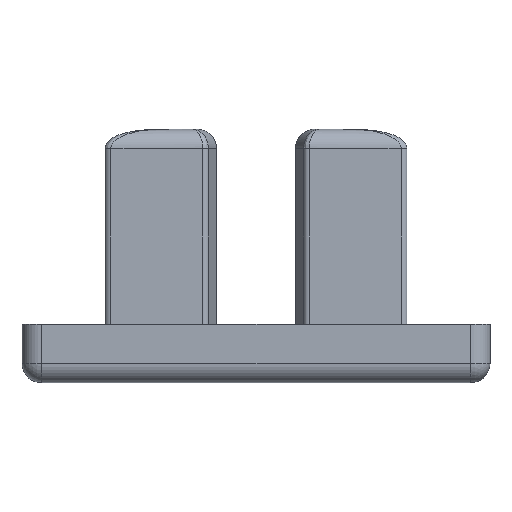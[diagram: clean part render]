
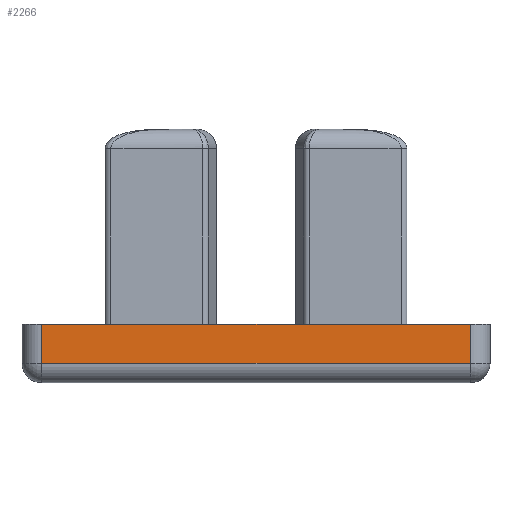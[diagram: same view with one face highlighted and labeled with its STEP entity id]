
A CAD part, left-side view. The second image highlights one B-rep face of the part: STEP entity #2266.
In plain terms, the highlighted planar face has unit normal (-1, 0, 0).
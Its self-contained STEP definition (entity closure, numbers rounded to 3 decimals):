
#90 = CARTESIAN_POINT ( 'NONE',  ( 0., 23., 3. ) ) ;
#94 = EDGE_CURVE ( 'NONE', #3015, #2921, #1959, .T. ) ;
#181 = FACE_OUTER_BOUND ( 'NONE', #1362, .T. ) ;
#207 = DIRECTION ( 'NONE',  ( 0., -1., 0. ) ) ;
#266 = CARTESIAN_POINT ( 'NONE',  ( 0., 23., 1. ) ) ;
#269 = CARTESIAN_POINT ( 'NONE',  ( 0., 1., 1. ) ) ;
#291 = PLANE ( 'NONE',  #1941 ) ;
#367 = ORIENTED_EDGE ( 'NONE', *, *, #583, .T. ) ;
#405 = ORIENTED_EDGE ( 'NONE', *, *, #2671, .F. ) ;
#434 = VERTEX_POINT ( 'NONE', #90 ) ;
#474 = LINE ( 'NONE', #2161, #1003 ) ;
#539 = DIRECTION ( 'NONE',  ( 1., 0., 0. ) ) ;
#583 = EDGE_CURVE ( 'NONE', #434, #2143, #474, .T. ) ;
#905 = LINE ( 'NONE', #2488, #2497 ) ;
#1003 = VECTOR ( 'NONE', #1911, 1000. ) ;
#1216 = LINE ( 'NONE', #1666, #2450 ) ;
#1362 = EDGE_LOOP ( 'NONE', ( #2527, #1971, #405, #367 ) ) ;
#1666 = CARTESIAN_POINT ( 'NONE',  ( 0., 24., 1. ) ) ;
#1852 = EDGE_CURVE ( 'NONE', #2143, #3015, #1216, .T. ) ;
#1911 = DIRECTION ( 'NONE',  ( 0., 0., -1. ) ) ;
#1941 = AXIS2_PLACEMENT_3D ( 'NONE', #2516, #539, #2245 ) ;
#1959 = LINE ( 'NONE', #2790, #2124 ) ;
#1971 = ORIENTED_EDGE ( 'NONE', *, *, #94, .T. ) ;
#2027 = DIRECTION ( 'NONE',  ( 0., -1., 0. ) ) ;
#2124 = VECTOR ( 'NONE', #2797, 1000. ) ;
#2143 = VERTEX_POINT ( 'NONE', #266 ) ;
#2161 = CARTESIAN_POINT ( 'NONE',  ( 0., 23., 3. ) ) ;
#2245 = DIRECTION ( 'NONE',  ( 0., 1., 0. ) ) ;
#2266 = ADVANCED_FACE ( 'NONE', ( #181 ), #291, .F. ) ;
#2450 = VECTOR ( 'NONE', #207, 1000. ) ;
#2488 = CARTESIAN_POINT ( 'NONE',  ( 0., 24., 3. ) ) ;
#2497 = VECTOR ( 'NONE', #2027, 1000. ) ;
#2516 = CARTESIAN_POINT ( 'NONE',  ( 0., 24., 3. ) ) ;
#2527 = ORIENTED_EDGE ( 'NONE', *, *, #1852, .T. ) ;
#2671 = EDGE_CURVE ( 'NONE', #434, #2921, #905, .T. ) ;
#2790 = CARTESIAN_POINT ( 'NONE',  ( 0., 1., 3. ) ) ;
#2797 = DIRECTION ( 'NONE',  ( 0., 0., 1. ) ) ;
#2921 = VERTEX_POINT ( 'NONE', #3147 ) ;
#3015 = VERTEX_POINT ( 'NONE', #269 ) ;
#3147 = CARTESIAN_POINT ( 'NONE',  ( 0., 1., 3. ) ) ;
